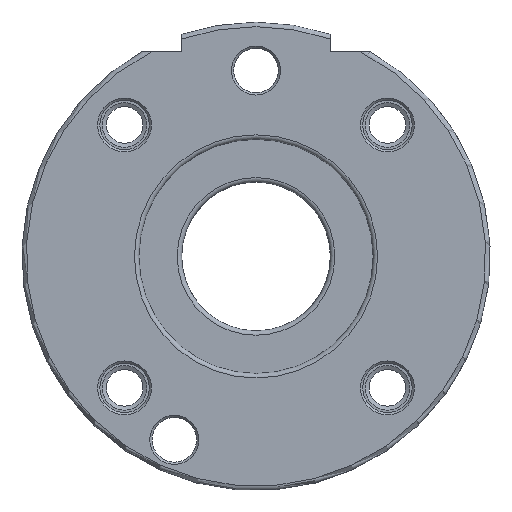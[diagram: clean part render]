
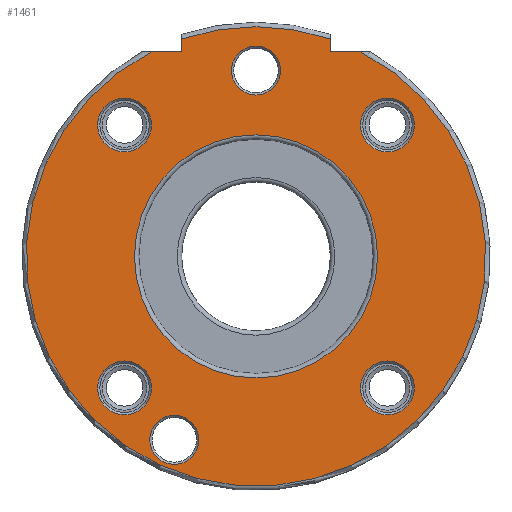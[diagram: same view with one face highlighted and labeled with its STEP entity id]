
A CAD part, front view. The second image highlights one B-rep face of the part: STEP entity #1461.
In plain terms, the highlighted planar face has unit normal (0, -1, 0).
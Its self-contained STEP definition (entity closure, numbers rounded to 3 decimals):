
#70=FACE_BOUND('',#384,.T.);
#71=FACE_BOUND('',#385,.T.);
#72=FACE_BOUND('',#386,.T.);
#73=FACE_BOUND('',#387,.T.);
#74=FACE_BOUND('',#388,.T.);
#75=FACE_BOUND('',#389,.T.);
#76=FACE_BOUND('',#390,.T.);
#97=PLANE('',#1625);
#134=LINE('',#2456,#210);
#135=LINE('',#2458,#211);
#136=LINE('',#2462,#212);
#137=LINE('',#2463,#213);
#210=VECTOR('',#1855,10.);
#211=VECTOR('',#1856,10.);
#212=VECTOR('',#1859,10.);
#213=VECTOR('',#1860,10.);
#303=FACE_OUTER_BOUND('',#383,.T.);
#383=EDGE_LOOP('',(#1016,#1017,#1018,#1019,#1020,#1021));
#384=EDGE_LOOP('',(#1022));
#385=EDGE_LOOP('',(#1023));
#386=EDGE_LOOP('',(#1024));
#387=EDGE_LOOP('',(#1025));
#388=EDGE_LOOP('',(#1026));
#389=EDGE_LOOP('',(#1027));
#390=EDGE_LOOP('',(#1028,#1029));
#487=CIRCLE('',#1619,16.35);
#492=CIRCLE('',#1624,16.35);
#493=CIRCLE('',#1626,30.9);
#494=CIRCLE('',#1627,30.9);
#495=CIRCLE('',#1628,3.3);
#496=CIRCLE('',#1629,3.624);
#497=CIRCLE('',#1630,3.624);
#498=CIRCLE('',#1631,3.624);
#499=CIRCLE('',#1632,3.624);
#500=CIRCLE('',#1633,3.3);
#629=VERTEX_POINT('',#2440);
#630=VERTEX_POINT('',#2441);
#634=VERTEX_POINT('',#2452);
#635=VERTEX_POINT('',#2453);
#636=VERTEX_POINT('',#2455);
#637=VERTEX_POINT('',#2457);
#638=VERTEX_POINT('',#2459);
#639=VERTEX_POINT('',#2461);
#640=VERTEX_POINT('',#2464);
#641=VERTEX_POINT('',#2466);
#642=VERTEX_POINT('',#2468);
#643=VERTEX_POINT('',#2470);
#644=VERTEX_POINT('',#2472);
#645=VERTEX_POINT('',#2474);
#780=EDGE_CURVE('',#629,#630,#487,.T.);
#785=EDGE_CURVE('',#630,#629,#492,.T.);
#786=EDGE_CURVE('',#634,#635,#493,.T.);
#787=EDGE_CURVE('',#634,#636,#134,.T.);
#788=EDGE_CURVE('',#636,#637,#135,.T.);
#789=EDGE_CURVE('',#638,#637,#494,.T.);
#790=EDGE_CURVE('',#638,#639,#136,.T.);
#791=EDGE_CURVE('',#639,#635,#137,.T.);
#792=EDGE_CURVE('',#640,#640,#495,.T.);
#793=EDGE_CURVE('',#641,#641,#496,.T.);
#794=EDGE_CURVE('',#642,#642,#497,.T.);
#795=EDGE_CURVE('',#643,#643,#498,.T.);
#796=EDGE_CURVE('',#644,#644,#499,.T.);
#797=EDGE_CURVE('',#645,#645,#500,.T.);
#1016=ORIENTED_EDGE('',*,*,#786,.F.);
#1017=ORIENTED_EDGE('',*,*,#787,.T.);
#1018=ORIENTED_EDGE('',*,*,#788,.T.);
#1019=ORIENTED_EDGE('',*,*,#789,.F.);
#1020=ORIENTED_EDGE('',*,*,#790,.T.);
#1021=ORIENTED_EDGE('',*,*,#791,.T.);
#1022=ORIENTED_EDGE('',*,*,#792,.F.);
#1023=ORIENTED_EDGE('',*,*,#793,.F.);
#1024=ORIENTED_EDGE('',*,*,#794,.F.);
#1025=ORIENTED_EDGE('',*,*,#795,.F.);
#1026=ORIENTED_EDGE('',*,*,#796,.F.);
#1027=ORIENTED_EDGE('',*,*,#797,.F.);
#1028=ORIENTED_EDGE('',*,*,#780,.F.);
#1029=ORIENTED_EDGE('',*,*,#785,.F.);
#1461=ADVANCED_FACE('',(#303,#70,#71,#72,#73,#74,#75,#76),#97,.T.);
#1619=AXIS2_PLACEMENT_3D('',#2442,#1839,#1840);
#1624=AXIS2_PLACEMENT_3D('',#2450,#1849,#1850);
#1625=AXIS2_PLACEMENT_3D('',#2451,#1851,#1852);
#1626=AXIS2_PLACEMENT_3D('',#2454,#1853,#1854);
#1627=AXIS2_PLACEMENT_3D('',#2460,#1857,#1858);
#1628=AXIS2_PLACEMENT_3D('',#2465,#1861,#1862);
#1629=AXIS2_PLACEMENT_3D('',#2467,#1863,#1864);
#1630=AXIS2_PLACEMENT_3D('',#2469,#1865,#1866);
#1631=AXIS2_PLACEMENT_3D('',#2471,#1867,#1868);
#1632=AXIS2_PLACEMENT_3D('',#2473,#1869,#1870);
#1633=AXIS2_PLACEMENT_3D('',#2475,#1871,#1872);
#1839=DIRECTION('center_axis',(0.,-1.,0.));
#1840=DIRECTION('ref_axis',(1.,0.,0.));
#1849=DIRECTION('center_axis',(0.,-1.,0.));
#1850=DIRECTION('ref_axis',(1.,0.,0.));
#1851=DIRECTION('center_axis',(0.,-1.,0.));
#1852=DIRECTION('ref_axis',(0.,0.,-1.));
#1853=DIRECTION('center_axis',(0.,1.,0.));
#1854=DIRECTION('ref_axis',(0.,0.,1.));
#1855=DIRECTION('',(0.,0.,-1.));
#1856=DIRECTION('',(-1.,0.,0.));
#1857=DIRECTION('center_axis',(0.,1.,0.));
#1858=DIRECTION('ref_axis',(0.,0.,-1.));
#1859=DIRECTION('',(-1.,0.,0.));
#1860=DIRECTION('',(0.,0.,1.));
#1861=DIRECTION('center_axis',(0.,-1.,0.));
#1862=DIRECTION('ref_axis',(-1.,0.,0.));
#1863=DIRECTION('center_axis',(0.,-1.,0.));
#1864=DIRECTION('ref_axis',(1.,0.,0.));
#1865=DIRECTION('center_axis',(0.,-1.,0.));
#1866=DIRECTION('ref_axis',(1.,0.,0.));
#1867=DIRECTION('center_axis',(0.,-1.,0.));
#1868=DIRECTION('ref_axis',(1.,0.,0.));
#1869=DIRECTION('center_axis',(0.,-1.,0.));
#1870=DIRECTION('ref_axis',(1.,0.,0.));
#1871=DIRECTION('center_axis',(0.,-1.,0.));
#1872=DIRECTION('ref_axis',(1.,0.,0.));
#2440=CARTESIAN_POINT('',(-16.35,0.,0.));
#2441=CARTESIAN_POINT('',(0.,0.,-16.35));
#2442=CARTESIAN_POINT('Origin',(0.,0.,0.));
#2450=CARTESIAN_POINT('Origin',(0.,0.,0.));
#2451=CARTESIAN_POINT('Origin',(-23.625,0.,0.));
#2452=CARTESIAN_POINT('',(-10.,0.,29.237));
#2453=CARTESIAN_POINT('',(10.,0.,29.237));
#2454=CARTESIAN_POINT('Origin',(0.,0.,0.));
#2455=CARTESIAN_POINT('',(-10.,0.,27.5));
#2456=CARTESIAN_POINT('',(-10.,0.,15.75));
#2457=CARTESIAN_POINT('',(-14.091,0.,27.5));
#2458=CARTESIAN_POINT('',(-21.813,0.,27.5));
#2459=CARTESIAN_POINT('',(14.091,0.,27.5));
#2460=CARTESIAN_POINT('Origin',(0.,0.,0.));
#2461=CARTESIAN_POINT('',(10.,0.,27.5));
#2462=CARTESIAN_POINT('',(-1.813,0.,27.5));
#2463=CARTESIAN_POINT('',(10.,0.,15.75));
#2464=CARTESIAN_POINT('',(3.3,0.,25.));
#2465=CARTESIAN_POINT('Origin',(0.,0.,
25.));
#2466=CARTESIAN_POINT('',(-21.301,0.,-17.678));
#2467=CARTESIAN_POINT('Origin',(-17.678,0.,
-17.678));
#2468=CARTESIAN_POINT('',(14.054,0.,17.678));
#2469=CARTESIAN_POINT('Origin',(17.678,0.,
17.678));
#2470=CARTESIAN_POINT('',(-21.301,0.,17.678));
#2471=CARTESIAN_POINT('Origin',(-17.678,0.,
17.678));
#2472=CARTESIAN_POINT('',(14.054,0.,-17.678));
#2473=CARTESIAN_POINT('Origin',(17.678,0.,
-17.678));
#2474=CARTESIAN_POINT('',(-14.282,0.,-24.666));
#2475=CARTESIAN_POINT('Origin',(-10.982,0.,
-24.666));
